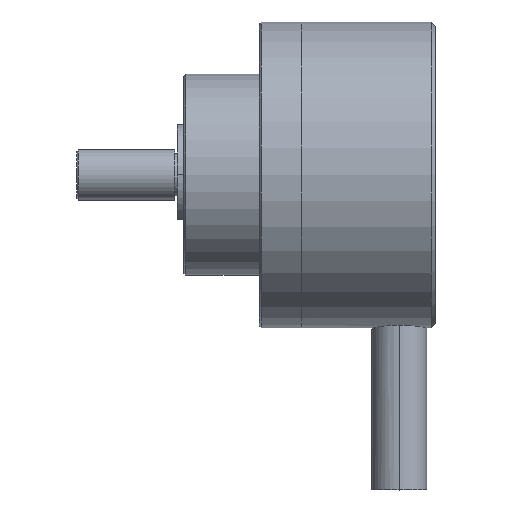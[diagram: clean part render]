
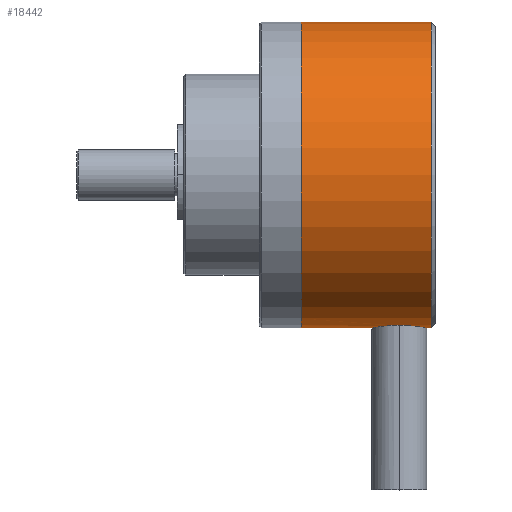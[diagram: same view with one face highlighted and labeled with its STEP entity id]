
A CAD part, top view. The second image highlights one B-rep face of the part: STEP entity #18442.
In plain terms, the highlighted cylindrical face has radius 18.25 mm (diameter 36.5 mm), a partial arc.
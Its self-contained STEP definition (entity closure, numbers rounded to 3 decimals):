
#536 = CARTESIAN_POINT ( 'NONE',  ( 43.156, -3.146, 19.901 ) ) ;
#860 = DIRECTION ( 'NONE',  ( 1., 0., 0. ) ) ;
#909 = CARTESIAN_POINT ( 'NONE',  ( 39.066, -3.014, 20.854 ) ) ;
#2302 = DIRECTION ( 'NONE',  ( 1., 0., 0. ) ) ;
#3188 = CARTESIAN_POINT ( 'NONE',  ( 40.532, -2.956, 21.189 ) ) ;
#4347 = CARTESIAN_POINT ( 'NONE',  ( 42.563, -3.068, 20.525 ) ) ;
#4476 = ORIENTED_EDGE ( 'NONE', *, *, #28386, .T. ) ;
#4483 = LINE ( 'NONE', #28823, #43170 ) ;
#4718 = CARTESIAN_POINT ( 'NONE',  ( 38.519, -3.067, 20.513 ) ) ;
#4902 = CARTESIAN_POINT ( 'NONE',  ( 43.832, -3.256, 17.889 ) ) ;
#5699 = CIRCLE ( 'NONE', #27544, 18.25 ) ;
#6175 = VECTOR ( 'NONE', #12522, 1000. ) ;
#6251 = DIRECTION ( 'NONE',  ( 0., 1., 0. ) ) ;
#6998 = DIRECTION ( 'NONE',  ( 1., 0., 0. ) ) ;
#8140 = CARTESIAN_POINT ( 'NONE',  ( 41.601, -2.986, 21.018 ) ) ;
#8497 = CARTESIAN_POINT ( 'NONE',  ( 38.046, -3.126, 20.07 ) ) ;
#8576 = ORIENTED_EDGE ( 'NONE', *, *, #28100, .T. ) ;
#9720 = LINE ( 'NONE', #26765, #19603 ) ;
#10911 = ORIENTED_EDGE ( 'NONE', *, *, #16845, .F. ) ;
#10920 = VERTEX_POINT ( 'NONE', #4902 ) ;
#11260 = AXIS2_PLACEMENT_3D ( 'NONE', #42701, #21299, #46237 ) ;
#11454 = B_SPLINE_CURVE_WITH_KNOTS ( 'NONE', 3,
 ( #11715, #33457, #15451, #40644, #19195, #44195, #22847, #536, #26465, #4347, #30023, #8140, #33606, #11871, #37227, #15599 ),
 .UNSPECIFIED., .F., .F.,
 ( 4, 2, 2, 2, 2, 2, 2, 4 ),
 ( 0.016, 0.016, 0.017, 0.017, 0.018, 0.019, 0.02, 0.021 ),
 .UNSPECIFIED. ) ;
#11715 = CARTESIAN_POINT ( 'NONE',  ( 43.832, -3.256, 17.889 ) ) ;
#11871 = CARTESIAN_POINT ( 'NONE',  ( 40.966, -2.96, 21.168 ) ) ;
#12247 = CARTESIAN_POINT ( 'NONE',  ( 37.668, -3.182, 19.543 ) ) ;
#12522 = DIRECTION ( 'NONE',  ( 1., 0., 0. ) ) ;
#12649 = CARTESIAN_POINT ( 'NONE',  ( 44.332, 33.244, 17.889 ) ) ;
#13078 = CARTESIAN_POINT ( 'NONE',  ( 44.332, 14.994, 17.889 ) ) ;
#15451 = CARTESIAN_POINT ( 'NONE',  ( 43.81, -3.253, 18.321 ) ) ;
#15599 = CARTESIAN_POINT ( 'NONE',  ( 40.532, -2.956, 21.189 ) ) ;
#15961 = CARTESIAN_POINT ( 'NONE',  ( 37.401, -3.226, 18.954 ) ) ;
#16131 = VERTEX_POINT ( 'NONE', #17194 ) ;
#16212 = AXIS2_PLACEMENT_3D ( 'NONE', #28118, #2302, #6251 ) ;
#16276 = CARTESIAN_POINT ( 'NONE',  ( 37.232, -3.256, 17.889 ) ) ;
#16785 = DIRECTION ( 'NONE',  ( 0., 1., 0. ) ) ;
#16845 = EDGE_CURVE ( 'NONE', #33623, #43119, #27581, .T. ) ;
#17194 = CARTESIAN_POINT ( 'NONE',  ( 44.332, -3.256, 17.889 ) ) ;
#18442 = ADVANCED_FACE ( 'NONE', ( #34952 ), #38870, .T. ) ;
#18827 = CARTESIAN_POINT ( 'NONE',  ( 28.832, 33.244, 17.889 ) ) ;
#19095 = CIRCLE ( 'NONE', #11260, 18.25 ) ;
#19195 = CARTESIAN_POINT ( 'NONE',  ( 43.663, -3.226, 18.954 ) ) ;
#19551 = CARTESIAN_POINT ( 'NONE',  ( 40.098, -2.96, 21.167 ) ) ;
#19603 = VECTOR ( 'NONE', #860, 1000. ) ;
#19718 = CARTESIAN_POINT ( 'NONE',  ( 37.253, -3.253, 18.319 ) ) ;
#21299 = DIRECTION ( 'NONE',  ( 1., 0., 0. ) ) ;
#22847 = CARTESIAN_POINT ( 'NONE',  ( 43.396, -3.182, 19.542 ) ) ;
#23192 = CARTESIAN_POINT ( 'NONE',  ( 39.466, -2.986, 21.02 ) ) ;
#23348 = CARTESIAN_POINT ( 'NONE',  ( 37.232, -3.256, 17.889 ) ) ;
#23601 = VERTEX_POINT ( 'NONE', #18827 ) ;
#24717 = LINE ( 'NONE', #27076, #6175 ) ;
#25334 = ORIENTED_EDGE ( 'NONE', *, *, #27822, .F. ) ;
#26465 = CARTESIAN_POINT ( 'NONE',  ( 43.018, -3.126, 20.07 ) ) ;
#26765 = CARTESIAN_POINT ( 'NONE',  ( 44.832, -3.256, 17.889 ) ) ;
#26804 = CARTESIAN_POINT ( 'NONE',  ( 38.877, -3.031, 20.752 ) ) ;
#27076 = CARTESIAN_POINT ( 'NONE',  ( 44.832, 33.244, 17.889 ) ) ;
#27544 = AXIS2_PLACEMENT_3D ( 'NONE', #13078, #38359, #16785 ) ;
#27581 = B_SPLINE_CURVE_WITH_KNOTS ( 'NONE', 3,
 ( #37409, #30056, #19551, #44535, #23192, #909, #26804, #4718, #30366, #8497, #33960, #12247, #37570, #15961, #41148, #19718, #44685, #23348 ),
 .UNSPECIFIED., .F., .F.,
 ( 4, 2, 2, 2, 2, 2, 2, 2, 4 ),
 ( 0., 0.001, 0.001, 0.002, 0.003, 0.003, 0.004, 0.005, 0.005 ),
 .UNSPECIFIED. ) ;
#27822 = EDGE_CURVE ( 'NONE', #34213, #16131, #5699, .T. ) ;
#28016 = EDGE_CURVE ( 'NONE', #23601, #33082, #19095, .T. ) ;
#28100 = EDGE_CURVE ( 'NONE', #33082, #43119, #4483, .T. ) ;
#28118 = CARTESIAN_POINT ( 'NONE',  ( 44.832, 14.994, 17.889 ) ) ;
#28310 = EDGE_CURVE ( 'NONE', #10920, #33623, #11454, .T. ) ;
#28386 = EDGE_CURVE ( 'NONE', #10920, #16131, #9720, .T. ) ;
#28442 = EDGE_CURVE ( 'NONE', #23601, #34213, #24717, .T. ) ;
#28823 = CARTESIAN_POINT ( 'NONE',  ( 44.832, -3.256, 17.889 ) ) ;
#30023 = CARTESIAN_POINT ( 'NONE',  ( 42.196, -3.028, 20.771 ) ) ;
#30056 = CARTESIAN_POINT ( 'NONE',  ( 40.313, -2.956, 21.189 ) ) ;
#30366 = CARTESIAN_POINT ( 'NONE',  ( 38.349, -3.087, 20.373 ) ) ;
#33082 = VERTEX_POINT ( 'NONE', #43774 ) ;
#33457 = CARTESIAN_POINT ( 'NONE',  ( 43.832, -3.256, 18.107 ) ) ;
#33606 = CARTESIAN_POINT ( 'NONE',  ( 41.392, -2.975, 21.082 ) ) ;
#33623 = VERTEX_POINT ( 'NONE', #3188 ) ;
#33960 = CARTESIAN_POINT ( 'NONE',  ( 37.909, -3.146, 19.904 ) ) ;
#34213 = VERTEX_POINT ( 'NONE', #12649 ) ;
#34952 = FACE_OUTER_BOUND ( 'NONE', #43060, .T. ) ;
#37227 = CARTESIAN_POINT ( 'NONE',  ( 40.75, -2.956, 21.189 ) ) ;
#37409 = CARTESIAN_POINT ( 'NONE',  ( 40.532, -2.956, 21.189 ) ) ;
#37570 = CARTESIAN_POINT ( 'NONE',  ( 37.566, -3.199, 19.351 ) ) ;
#38359 = DIRECTION ( 'NONE',  ( 1., 0., 0. ) ) ;
#38870 = CYLINDRICAL_SURFACE ( 'NONE', #16212, 18.25 ) ;
#40644 = CARTESIAN_POINT ( 'NONE',  ( 43.726, -3.238, 18.744 ) ) ;
#40925 = ORIENTED_EDGE ( 'NONE', *, *, #28310, .F. ) ;
#41148 = CARTESIAN_POINT ( 'NONE',  ( 37.337, -3.238, 18.746 ) ) ;
#42701 = CARTESIAN_POINT ( 'NONE',  ( 28.832, 14.994, 17.889 ) ) ;
#43060 = EDGE_LOOP ( 'NONE', ( #44773, #8576, #10911, #40925, #4476, #25334, #45339 ) ) ;
#43119 = VERTEX_POINT ( 'NONE', #16276 ) ;
#43170 = VECTOR ( 'NONE', #6998, 1000. ) ;
#43774 = CARTESIAN_POINT ( 'NONE',  ( 28.832, -3.256, 17.889 ) ) ;
#44195 = CARTESIAN_POINT ( 'NONE',  ( 43.497, -3.199, 19.353 ) ) ;
#44535 = CARTESIAN_POINT ( 'NONE',  ( 39.676, -2.975, 21.083 ) ) ;
#44685 = CARTESIAN_POINT ( 'NONE',  ( 37.232, -3.256, 18.105 ) ) ;
#44773 = ORIENTED_EDGE ( 'NONE', *, *, #28016, .T. ) ;
#45339 = ORIENTED_EDGE ( 'NONE', *, *, #28442, .F. ) ;
#46237 = DIRECTION ( 'NONE',  ( 0., 1., 0. ) ) ;
